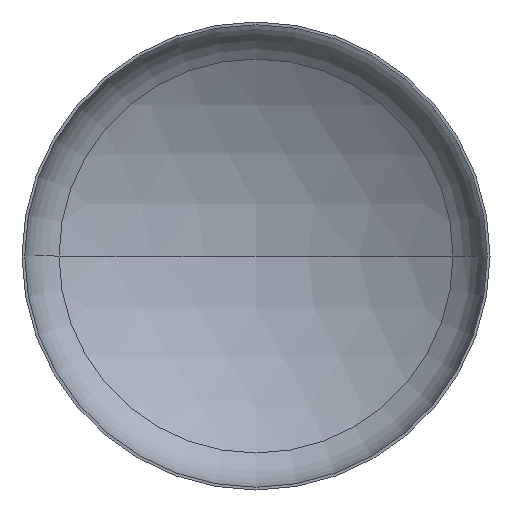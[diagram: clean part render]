
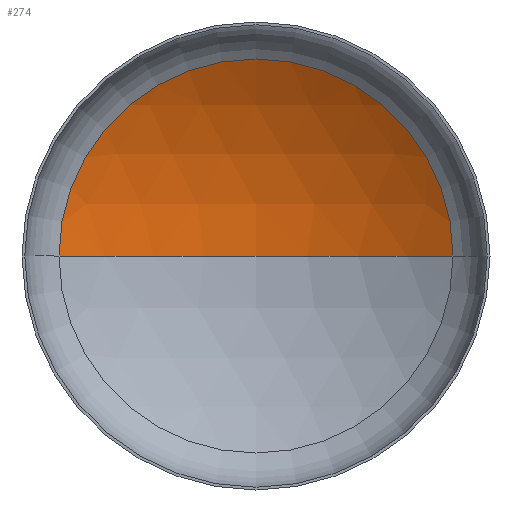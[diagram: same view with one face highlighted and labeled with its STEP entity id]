
A CAD part, front view. The second image highlights one B-rep face of the part: STEP entity #274.
In plain terms, the highlighted spherical face has radius 2720 mm.
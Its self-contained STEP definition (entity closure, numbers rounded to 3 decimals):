
#5 = AXIS2_PLACEMENT_3D ( 'NONE', #298, #147, #337 ) ;
#6 = EDGE_LOOP ( 'NONE', ( #124, #45, #112 ) ) ;
#10 = AXIS2_PLACEMENT_3D ( 'NONE', #100, #132, #261 ) ;
#27 = AXIS2_PLACEMENT_3D ( 'NONE', #277, #278, #243 ) ;
#41 = DIRECTION ( 'NONE',  ( 1., 0., 0. ) ) ;
#45 = ORIENTED_EDGE ( 'NONE', *, *, #373, .T. ) ;
#55 = VERTEX_POINT ( 'NONE', #254 ) ;
#74 = VERTEX_POINT ( 'NONE', #357 ) ;
#96 = CIRCLE ( 'NONE', #216, 1431.253 ) ;
#100 = CARTESIAN_POINT ( 'NONE',  ( 0., -1806.548, 0. ) ) ;
#112 = ORIENTED_EDGE ( 'NONE', *, *, #378, .T. ) ;
#124 = ORIENTED_EDGE ( 'NONE', *, *, #353, .F. ) ;
#132 = DIRECTION ( 'NONE',  ( 0., 0., 1. ) ) ;
#147 = DIRECTION ( 'NONE',  ( 0., 0., -1. ) ) ;
#149 = FACE_OUTER_BOUND ( 'NONE', #6, .T. ) ;
#163 = VERTEX_POINT ( 'NONE', #211 ) ;
#211 = CARTESIAN_POINT ( 'NONE',  ( 0., 913.452, 0. ) ) ;
#216 = AXIS2_PLACEMENT_3D ( 'NONE', #404, #247, #41 ) ;
#243 = DIRECTION ( 'NONE',  ( -1., 0., 0. ) ) ;
#247 = DIRECTION ( 'NONE',  ( 0., -1., 0. ) ) ;
#254 = CARTESIAN_POINT ( 'NONE',  ( -1431.253, 506.441, 0. ) ) ;
#259 = CIRCLE ( 'NONE', #10, 2720. ) ;
#261 = DIRECTION ( 'NONE',  ( 1., 0., 0. ) ) ;
#274 = ADVANCED_FACE ( 'NONE', ( #149 ), #276, .F. ) ;
#276 = SPHERICAL_SURFACE ( 'NONE', #27, 2720. ) ;
#277 = CARTESIAN_POINT ( 'NONE',  ( 0., -1806.548, 0. ) ) ;
#278 = DIRECTION ( 'NONE',  ( 0., 0., -1. ) ) ;
#298 = CARTESIAN_POINT ( 'NONE',  ( 0., -1806.548, 0. ) ) ;
#337 = DIRECTION ( 'NONE',  ( -1., 0., 0. ) ) ;
#353 = EDGE_CURVE ( 'NONE', #163, #55, #259, .T. ) ;
#357 = CARTESIAN_POINT ( 'NONE',  ( 1431.253, 506.441, 0. ) ) ;
#373 = EDGE_CURVE ( 'NONE', #163, #74, #389, .T. ) ;
#378 = EDGE_CURVE ( 'NONE', #74, #55, #96, .T. ) ;
#389 = CIRCLE ( 'NONE', #5, 2720. ) ;
#404 = CARTESIAN_POINT ( 'NONE',  ( 0., 506.441, 0. ) ) ;
